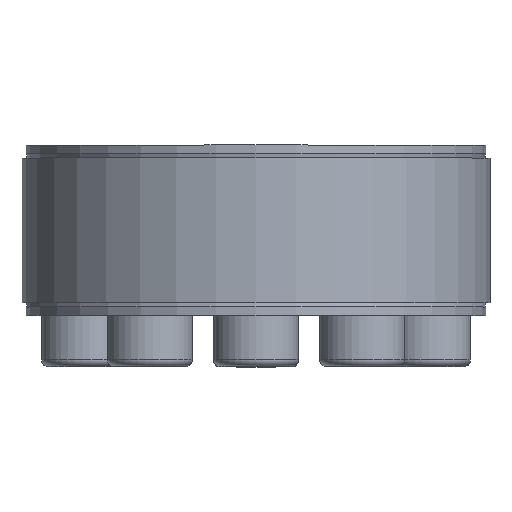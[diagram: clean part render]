
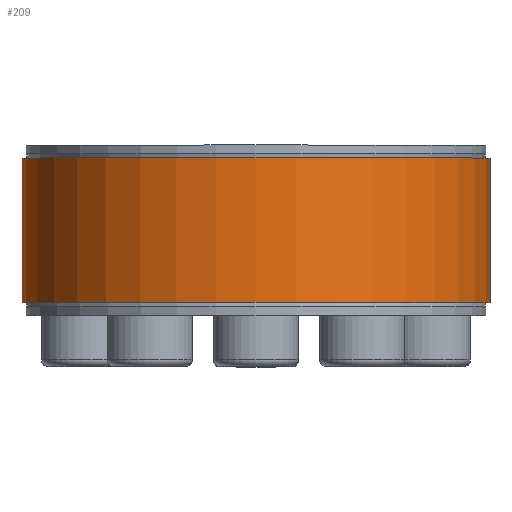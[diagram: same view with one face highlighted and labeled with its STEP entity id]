
A CAD part, top view. The second image highlights one B-rep face of the part: STEP entity #209.
In plain terms, the highlighted cylindrical face has radius 27.5 mm (diameter 55 mm), a partial arc.
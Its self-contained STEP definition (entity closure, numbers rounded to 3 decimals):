
#209 = ADVANCED_FACE( '', ( #403 ), #404, .T. );
#403 = FACE_OUTER_BOUND( '', #624, .T. );
#404 = CYLINDRICAL_SURFACE( '', #625, 27.5 );
#624 = EDGE_LOOP( '', ( #1171, #1172, #1173, #1174 ) );
#625 = AXIS2_PLACEMENT_3D( '', #1175, #1176, #1177 );
#1171 = ORIENTED_EDGE( '', *, *, #1940, .F. );
#1172 = ORIENTED_EDGE( '', *, *, #1981, .T. );
#1173 = ORIENTED_EDGE( '', *, *, #1959, .T. );
#1174 = ORIENTED_EDGE( '', *, *, #1991, .F. );
#1175 = CARTESIAN_POINT( '', ( 0., -60., 0. ) );
#1176 = DIRECTION( '', ( 0., -1., 0. ) );
#1177 = DIRECTION( '', ( 0., 0., 1. ) );
#1940 = EDGE_CURVE( '', #2700, #2702, #2703, .T. );
#1959 = EDGE_CURVE( '', #2733, #2734, #2735, .T. );
#1981 = EDGE_CURVE( '', #2700, #2733, #2763, .T. );
#1991 = EDGE_CURVE( '', #2702, #2734, #2780, .T. );
#2700 = VERTEX_POINT( '', #4335 );
#2702 = VERTEX_POINT( '', #4338 );
#2703 = CIRCLE( '', #4339, 27.5 );
#2733 = VERTEX_POINT( '', #4381 );
#2734 = VERTEX_POINT( '', #4382 );
#2735 = CIRCLE( '', #4383, 27.5 );
#2763 = LINE( '', #4427, #4428 );
#2780 = LINE( '', #4445, #4446 );
#4335 = CARTESIAN_POINT( '', ( 0.458, -8.5, -27.496 ) );
#4338 = CARTESIAN_POINT( '', ( -0.458, -8.5, -27.496 ) );
#4339 = AXIS2_PLACEMENT_3D( '', #4911, #4912, #4913 );
#4381 = CARTESIAN_POINT( '', ( 0.458, 8.5, -27.496 ) );
#4382 = CARTESIAN_POINT( '', ( -0.458, 8.5, -27.496 ) );
#4383 = AXIS2_PLACEMENT_3D( '', #4932, #4933, #4934 );
#4427 = CARTESIAN_POINT( '', ( 0.458, -60., -27.496 ) );
#4428 = VECTOR( '', #4951, 1000. );
#4445 = CARTESIAN_POINT( '', ( -0.458, -60., -27.496 ) );
#4446 = VECTOR( '', #4973, 1000. );
#4911 = CARTESIAN_POINT( '', ( 0., -8.5, 0. ) );
#4912 = DIRECTION( '', ( 0., -1., 0. ) );
#4913 = DIRECTION( '', ( 0., 0., -1. ) );
#4932 = CARTESIAN_POINT( '', ( 0., 8.5, 0. ) );
#4933 = DIRECTION( '', ( 0., -1., 0. ) );
#4934 = DIRECTION( '', ( 0., 0., -1. ) );
#4951 = DIRECTION( '', ( 0., 1., 0. ) );
#4973 = DIRECTION( '', ( 0., 1., 0. ) );
